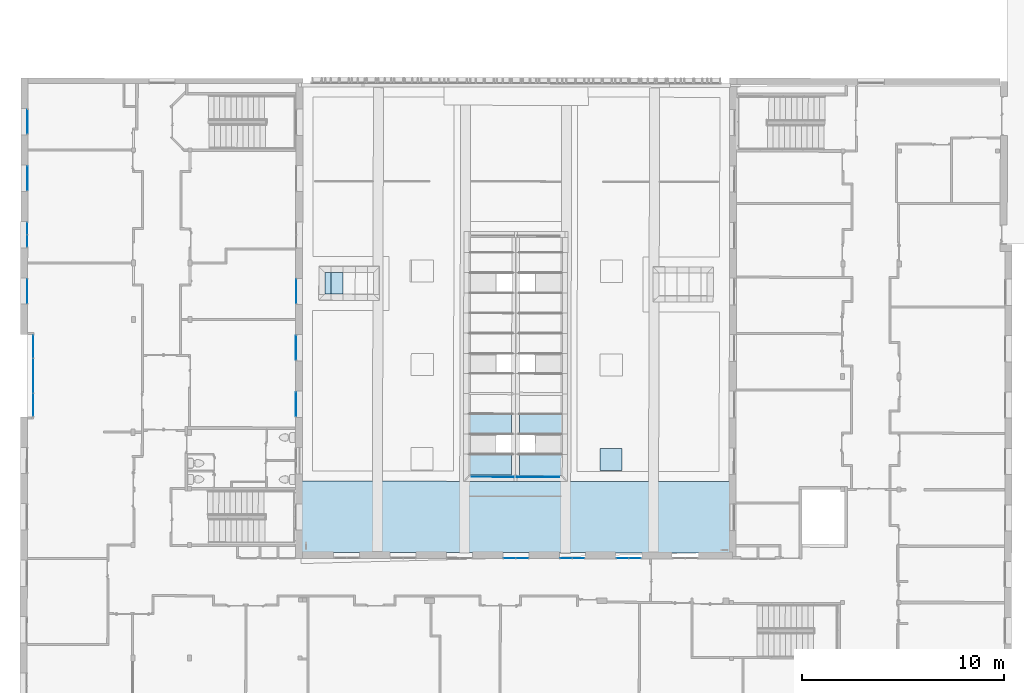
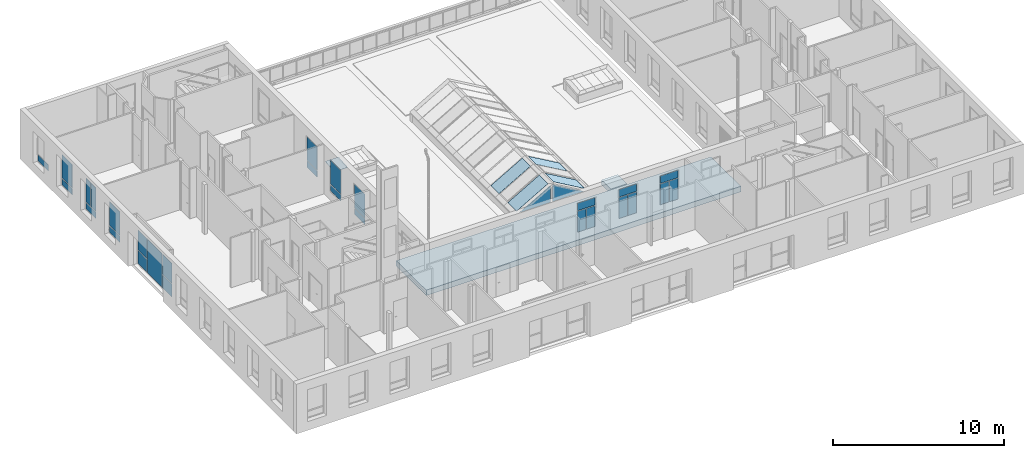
# One storey, part 35 of 101: 36 plates, 2 slabs, 16 elements without a shape of their own.
"""IFC2X3 building model written with IfcOpenShell, lengths in metres."""

from ifc_helpers import new_model, entity, si_unit, converted_unit, derived_unit, direction, frame, frame_2d, origin, place, context, subcontext, project, spatial, polyline, rectangle, outline, extrude, source, transform, mapped, material, layer, layer_set, type_object, type_shapes, element, aggregate, save


model = new_model("IFC2X3")

# Units and contexts
model_context = context("Model", 3, precision=1e-05, world=origin(), true_north=direction((6.123233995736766e-17, 1.0)))
body_context = subcontext(model_context, "Body", "Model", "MODEL_VIEW")
ifc_project = project(units=[si_unit("LENGTHUNIT", "METRE"), si_unit("AREAUNIT", "SQUARE_METRE"), converted_unit("PLANEANGLEUNIT", "DEGREE", entity("IfcPlaneAngleMeasure", 0.017453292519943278), si_unit("PLANEANGLEUNIT", "RADIAN"), dimensions=[0, 0, 0, 0, 0, 0, 0]), derived_unit("THERMALTRANSMITTANCEUNIT", [(si_unit("MASSUNIT", "GRAM", prefix="KILO"), 1), (si_unit("THERMODYNAMICTEMPERATUREUNIT", "KELVIN"), -1), (si_unit("TIMEUNIT", "SECOND"), -3)])], contexts=[model_context])

# Site, building, storey
site_placement = place(None, frame((1253.6752467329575, 2072.143113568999, 91.49999999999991), z_axis=(0.0, 0.0, 1.0), x_axis=(0.7237211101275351, 0.6900925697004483, 0.0)))
site = spatial("IfcSite", under=ifc_project, at=site_placement, Name="Surface", CompositionType="ELEMENT")
building_placement = place(site_placement, origin())
building = spatial("IfcBuilding", under=site, at=building_placement, CompositionType="ELEMENT")
storey_placement = place(building_placement, origin())
storey = spatial("IfcBuildingStorey", under=building, at=storey_placement, Name="0- Rdc", CompositionType="ELEMENT", Elevation=-5.764692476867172e-13)

# Curtain wall, plate
curtain_wall_type_1 = type_object("IfcCurtainWallType", Name="Mur-rideau:Menuiserie Ext 1F+1OB VERTIC", PredefinedType="NOTDEFINED")
curtain_wall_1_placement = place(storey_placement, origin())
curtain_wall_1 = element("IfcCurtainWall", 1, at=curtain_wall_1_placement, inside=storey, type_object=curtain_wall_type_1, Name="Mur-rideau:Menuiserie Ext 1F+1OB VERTIC", ObjectType="Mur-rideau:Menuiserie Ext 1F+1OB VERTIC")
ifc_material_1 = material(Name="Verre")
ifc_layer_1 = layer(ifc_material_1, 0.01)
ifc_layer_set_1 = layer_set([ifc_layer_1], Name="Panneau système:Vitré")
plate_type_1 = type_object("IfcPlateType", Name="Panneau système:Vitré", PredefinedType="CURTAIN_PANEL", material=ifc_layer_set_1)
shared_shape_1 = source(origin(), body_context, "Body", "SweptSolid", [
    extrude(rectangle(XDim=0.01, YDim=1.199695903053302, at=frame_2d((0.0, -4.163336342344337e-15), x_axis=(1.0, 0.0))), frame((0.0, 0.0, 0.0), z_axis=(0.0, 0.0, 1.0), x_axis=(0.0, 1.0, 0.0)), (0.0, 0.0, 1.0), 0.44499999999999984),
])
type_shapes(plate_type_1, [shared_shape_1])
plate_1_placement = place(curtain_wall_1_placement, frame((159.11089533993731, 19.86178954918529, 0.6699999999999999), z_axis=(0.0, 0.0, 1.0), x_axis=(0.6911544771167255, 0.7227070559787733, 0.0)))
plate_1 = element("IfcPlate", 2, at=plate_1_placement, type_object=plate_type_1, material=ifc_material_1, Name="Panneau système:Vitré", ObjectType="Panneau système:Vitré", context=body_context, shape_type="MappedRepresentation", body=[
    mapped(shared_shape_1, transform((0.0, 0.0, 0.0), scale=1.0)),
])

curtain_wall_2_placement = place(storey_placement, origin())
curtain_wall_2 = element("IfcCurtainWall", 3, at=curtain_wall_2_placement, inside=storey, type_object=curtain_wall_type_1, Name="Mur-rideau:Menuiserie Ext 1F+1OB VERTIC", ObjectType="Mur-rideau:Menuiserie Ext 1F+1OB VERTIC")
plate_2_placement = place(curtain_wall_2_placement, frame((162.98040469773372, 23.909862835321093, 0.6699999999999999), z_axis=(0.0, 0.0, 1.0), x_axis=(0.6911544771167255, 0.7227070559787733, 0.0)))
plate_2 = element("IfcPlate", 4, at=plate_2_placement, type_object=plate_type_1, material=ifc_material_1, Name="Panneau système:Vitré", ObjectType="Panneau système:Vitré", context=body_context, shape_type="MappedRepresentation", body=[
    mapped(shared_shape_1, transform((0.0, 0.0, 0.0), scale=1.0)),
])

curtain_wall_3_placement = place(storey_placement, origin())
curtain_wall_3 = element("IfcCurtainWall", 5, at=curtain_wall_3_placement, inside=storey, type_object=curtain_wall_type_1, Name="Mur-rideau:Menuiserie Ext 1F+1OB VERTIC", ObjectType="Mur-rideau:Menuiserie Ext 1F+1OB VERTIC")
plate_3_placement = place(curtain_wall_3_placement, frame((164.91515937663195, 25.933899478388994, 0.6699999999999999), z_axis=(0.0, 0.0, 1.0), x_axis=(0.6911544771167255, 0.7227070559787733, 0.0)))
plate_3 = element("IfcPlate", 6, at=plate_3_placement, type_object=plate_type_1, material=ifc_material_1, Name="Panneau système:Vitré", ObjectType="Panneau système:Vitré", context=body_context, shape_type="MappedRepresentation", body=[
    mapped(shared_shape_1, transform((0.0, 0.0, 0.0), scale=1.0)),
])
aggregate(curtain_wall_3, [plate_3])

# Plate
plate_type_2 = type_object("IfcPlateType", Name="Panneau système:Vitré", PredefinedType="CURTAIN_PANEL", material=ifc_layer_set_1)
shared_shape_2 = source(origin(), body_context, "Body", "SweptSolid", [
    extrude(rectangle(XDim=0.01, YDim=1.199695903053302, at=frame_2d((0.0, -4.163336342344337e-15), x_axis=(1.0, 0.0))), frame((0.0, 0.0, 0.0), z_axis=(0.0, 0.0, 1.0), x_axis=(0.0, 1.0, 0.0)), (0.0, 0.0, 1.0), 1.6849999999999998),
])
type_shapes(plate_type_2, [shared_shape_2])
plate_4_placement = place(curtain_wall_1_placement, frame((159.11089533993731, 19.86178954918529, 1.1649999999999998), z_axis=(0.0, 0.0, 1.0), x_axis=(0.6911544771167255, 0.7227070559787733, 0.0)))
plate_4 = element("IfcPlate", 7, at=plate_4_placement, type_object=plate_type_2, material=ifc_material_1, Name="Panneau système:Vitré", ObjectType="Panneau système:Vitré", context=body_context, shape_type="MappedRepresentation", body=[
    mapped(shared_shape_2, transform((0.0, 0.0, 0.0), scale=1.0)),
])

aggregate(curtain_wall_1, [plate_1, plate_4])

plate_5_placement = place(curtain_wall_2_placement, frame((162.98040469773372, 23.909862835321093, 1.1649999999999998), z_axis=(0.0, 0.0, 1.0), x_axis=(0.6911544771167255, 0.7227070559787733, 0.0)))
plate_5 = element("IfcPlate", 8, at=plate_5_placement, type_object=plate_type_2, material=ifc_material_1, Name="Panneau système:Vitré", ObjectType="Panneau système:Vitré", context=body_context, shape_type="MappedRepresentation", body=[
    mapped(shared_shape_2, transform((0.0, 0.0, 0.0), scale=1.0)),
])

aggregate(curtain_wall_2, [plate_2, plate_5])

# Curtain wall, plates
curtain_wall_4_placement = place(storey_placement, origin())
curtain_wall_4 = element("IfcCurtainWall", 9, at=curtain_wall_4_placement, inside=storey, type_object=curtain_wall_type_1, Name="Mur-rideau:Menuiserie Ext 1F+1OB VERTIC", ObjectType="Mur-rideau:Menuiserie Ext 1F+1OB VERTIC")
plate_type_3 = type_object("IfcPlateType", Name="Panneau système:Vitré", PredefinedType="CURTAIN_PANEL", material=ifc_layer_set_1)
shared_shape_3 = source(origin(), body_context, "Body", "SweptSolid", [
    extrude(rectangle(XDim=0.44499999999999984, YDim=1.1996959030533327, at=frame_2d((0.0, -5.773159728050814e-15), x_axis=(1.0, 0.0))), frame((0.0, -0.005000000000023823, 0.22249999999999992), z_axis=(0.0, 1.0, 0.0), x_axis=(0.0, 0.0, 1.0)), (0.0, 0.0, 1.0), 0.01),
])
type_shapes(plate_type_3, [shared_shape_3])
plate_6_placement = place(curtain_wall_4_placement, frame((161.04565001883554, 21.885826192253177, 0.6699999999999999), z_axis=(0.0, 0.0, 1.0), x_axis=(0.6911544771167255, 0.7227070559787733, 0.0)))
plate_6 = element("IfcPlate", 10, at=plate_6_placement, type_object=plate_type_3, material=ifc_material_1, Name="Panneau système:Vitré", ObjectType="Panneau système:Vitré", context=body_context, shape_type="MappedRepresentation", body=[
    mapped(shared_shape_3, transform((0.0, 0.0, 0.0), scale=1.0)),
])
plate_type_4 = type_object("IfcPlateType", Name="Panneau système:Vitré", PredefinedType="CURTAIN_PANEL", material=ifc_layer_set_1)
shared_shape_4 = source(origin(), body_context, "Body", "SweptSolid", [
    extrude(rectangle(XDim=0.01, YDim=0.5748479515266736, at=frame_2d((0.0, 8.326672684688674e-16), x_axis=(1.0, 0.0))), frame((0.0, 0.0, 0.0), z_axis=(0.0, 0.0, 1.0), x_axis=(0.0, 1.0, 0.0)), (0.0, 0.0, 1.0), 1.6850000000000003),
])
type_shapes(plate_type_4, [shared_shape_4])
plate_7_placement = place(curtain_wall_4_placement, frame((160.8297167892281, 21.660035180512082, 1.1649999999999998), z_axis=(0.0, 0.0, 1.0), x_axis=(0.6911544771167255, 0.7227070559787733, 0.0)))
plate_7 = element("IfcPlate", 11, at=plate_7_placement, type_object=plate_type_4, material=ifc_material_1, Name="Panneau système:Vitré", ObjectType="Panneau système:Vitré", context=body_context, shape_type="MappedRepresentation", body=[
    mapped(shared_shape_4, transform((0.0, 0.0, 0.0), scale=1.0)),
])
plate_8_placement = place(curtain_wall_4_placement, frame((161.26158324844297, 22.1116172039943, 1.1649999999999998), z_axis=(0.0, 0.0, 1.0), x_axis=(0.6911544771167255, 0.7227070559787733, 0.0)))
plate_8 = element("IfcPlate", 12, at=plate_8_placement, type_object=plate_type_4, material=ifc_material_1, Name="Panneau système:Vitré", ObjectType="Panneau système:Vitré", context=body_context, shape_type="MappedRepresentation", body=[
    mapped(shared_shape_4, transform((0.0, 0.0, 0.0), scale=1.0)),
])
aggregate(curtain_wall_4, [plate_6, plate_7, plate_8])

# Curtain wall, plate
curtain_wall_5_placement = place(storey_placement, origin())
curtain_wall_5 = element("IfcCurtainWall", 13, at=curtain_wall_5_placement, inside=storey, type_object=curtain_wall_type_1, Name="Mur-rideau:Menuiserie Ext 1F+1OB VERTIC", ObjectType="Mur-rideau:Menuiserie Ext 1F+1OB VERTIC")
plate_type_5 = type_object("IfcPlateType", Name="Panneau système:Vitré", PredefinedType="CURTAIN_PANEL", material=ifc_layer_set_1)
shared_shape_5 = source(origin(), body_context, "Body", "SweptSolid", [
    extrude(rectangle(XDim=0.01, YDim=1.199695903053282, at=frame_2d((0.0, 4.163336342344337e-15), x_axis=(1.0, 0.0))), frame((0.0, 0.0, 0.0), z_axis=(0.0, 0.0, 1.0), x_axis=(0.0, 1.0, 0.0)), (0.0, 0.0, 1.0), 0.44499999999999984),
])
type_shapes(plate_type_5, [shared_shape_5])
plate_9_placement = place(curtain_wall_5_placement, frame((168.75534873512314, 10.64824385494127, 0.6699999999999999), z_axis=(0.0, 0.0, 1.0), x_axis=(0.6909838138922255, 0.722870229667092, 0.0)))
plate_9 = element("IfcPlate", 14, at=plate_9_placement, type_object=plate_type_5, material=ifc_material_1, Name="Panneau système:Vitré", ObjectType="Panneau système:Vitré", context=body_context, shape_type="MappedRepresentation", body=[
    mapped(shared_shape_5, transform((0.0, 0.0, 0.0), scale=1.0)),
])

curtain_wall_6_placement = place(storey_placement, origin())
curtain_wall_6 = element("IfcCurtainWall", 15, at=curtain_wall_6_placement, inside=storey, type_object=curtain_wall_type_1, Name="Mur-rideau:Menuiserie Ext 1F+1OB VERTIC", ObjectType="Mur-rideau:Menuiserie Ext 1F+1OB VERTIC")
plate_10_placement = place(curtain_wall_6_placement, frame((166.820594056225, 8.624207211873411, 0.6699999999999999), z_axis=(0.0, 0.0, 1.0), x_axis=(0.6909838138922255, 0.722870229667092, 0.0)))
plate_10 = element("IfcPlate", 16, at=plate_10_placement, type_object=plate_type_5, material=ifc_material_1, Name="Panneau système:Vitré", ObjectType="Panneau système:Vitré", context=body_context, shape_type="MappedRepresentation", body=[
    mapped(shared_shape_5, transform((0.0, 0.0, 0.0), scale=1.0)),
])

curtain_wall_7_placement = place(storey_placement, origin())
curtain_wall_7 = element("IfcCurtainWall", 17, at=curtain_wall_7_placement, inside=storey, type_object=curtain_wall_type_1, Name="Mur-rideau:Menuiserie Ext 1F+1OB VERTIC", ObjectType="Mur-rideau:Menuiserie Ext 1F+1OB VERTIC")
plate_11_placement = place(curtain_wall_7_placement, frame((164.88583937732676, 6.60017056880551, 0.6699999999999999), z_axis=(0.0, 0.0, 1.0), x_axis=(0.6909838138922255, 0.722870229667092, 0.0)))
plate_11 = element("IfcPlate", 18, at=plate_11_placement, type_object=plate_type_5, material=ifc_material_1, Name="Panneau système:Vitré", ObjectType="Panneau système:Vitré", context=body_context, shape_type="MappedRepresentation", body=[
    mapped(shared_shape_5, transform((0.0, 0.0, 0.0), scale=1.0)),
])

# Plate
plate_type_6 = type_object("IfcPlateType", Name="Panneau système:Vitré", PredefinedType="CURTAIN_PANEL", material=ifc_layer_set_1)
shared_shape_6 = source(origin(), body_context, "Body", "SweptSolid", [
    extrude(rectangle(XDim=0.01, YDim=1.199695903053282, at=frame_2d((0.0, 4.163336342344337e-15), x_axis=(1.0, 0.0))), frame((0.0, 0.0, 0.0), z_axis=(0.0, 0.0, 1.0), x_axis=(0.0, 1.0, 0.0)), (0.0, 0.0, 1.0), 1.6849999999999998),
])
type_shapes(plate_type_6, [shared_shape_6])
plate_12_placement = place(curtain_wall_5_placement, frame((168.75534873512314, 10.64824385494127, 1.1649999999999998), z_axis=(0.0, 0.0, 1.0), x_axis=(0.6909838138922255, 0.722870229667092, 0.0)))
plate_12 = element("IfcPlate", 19, at=plate_12_placement, type_object=plate_type_6, material=ifc_material_1, Name="Panneau système:Vitré", ObjectType="Panneau système:Vitré", context=body_context, shape_type="MappedRepresentation", body=[
    mapped(shared_shape_6, transform((0.0, 0.0, 0.0), scale=1.0)),
])

aggregate(curtain_wall_5, [plate_9, plate_12])

plate_13_placement = place(curtain_wall_6_placement, frame((166.820594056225, 8.624207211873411, 1.1649999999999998), z_axis=(0.0, 0.0, 1.0), x_axis=(0.6909838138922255, 0.722870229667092, 0.0)))
plate_13 = element("IfcPlate", 20, at=plate_13_placement, type_object=plate_type_6, material=ifc_material_1, Name="Panneau système:Vitré", ObjectType="Panneau système:Vitré", context=body_context, shape_type="MappedRepresentation", body=[
    mapped(shared_shape_6, transform((0.0, 0.0, 0.0), scale=1.0)),
])

aggregate(curtain_wall_6, [plate_10, plate_13])

plate_14_placement = place(curtain_wall_7_placement, frame((164.88583937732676, 6.60017056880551, 1.1649999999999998), z_axis=(0.0, 0.0, 1.0), x_axis=(0.6909838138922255, 0.722870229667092, 0.0)))
plate_14 = element("IfcPlate", 21, at=plate_14_placement, type_object=plate_type_6, material=ifc_material_1, Name="Panneau système:Vitré", ObjectType="Panneau système:Vitré", context=body_context, shape_type="MappedRepresentation", body=[
    mapped(shared_shape_6, transform((0.0, 0.0, 0.0), scale=1.0)),
])

aggregate(curtain_wall_7, [plate_11, plate_14])

# Curtain wall, plates
curtain_wall_type_2 = type_object("IfcCurtainWallType", Name="Mur-rideau:Menuiserie Ext 2OF+1F VERTIC", PredefinedType="NOTDEFINED")
curtain_wall_8_placement = place(storey_placement, origin())
curtain_wall_8 = element("IfcCurtainWall", 22, at=curtain_wall_8_placement, inside=storey, type_object=curtain_wall_type_2, Name="Mur-rideau:Menuiserie Ext 2OF+1F VERTIC", ObjectType="Mur-rideau:Menuiserie Ext 2OF+1F VERTIC")
plate_type_7 = type_object("IfcPlateType", Name="Panneau système:Vitré", PredefinedType="CURTAIN_PANEL", material=ifc_layer_set_1)
shared_shape_7 = source(origin(), body_context, "Body", "SweptSolid", [
    extrude(rectangle(XDim=0.01, YDim=0.5748479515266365, at=frame_2d((0.0, 1.4988010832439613e-15), x_axis=(1.0, 0.0))), frame((0.0, 0.0, 0.0), z_axis=(0.0, 0.0, 1.0), x_axis=(0.0, 1.0, 0.0)), (0.0, 0.0, 1.0), 1.4833333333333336),
])
type_shapes(plate_type_7, [shared_shape_7])
plate_15_placement = place(curtain_wall_8_placement, frame((167.74029189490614, -6.6768079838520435, 0.7916666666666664), z_axis=(0.0, 0.0, 1.0), x_axis=(-0.7228702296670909, 0.6909838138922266, 0.0)))
plate_15 = element("IfcPlate", 23, at=plate_15_placement, type_object=plate_type_7, material=ifc_material_1, Name="Panneau système:Vitré", ObjectType="Panneau système:Vitré", context=body_context, shape_type="MappedRepresentation", body=[
    mapped(shared_shape_7, transform((0.0, 0.0, 0.0), scale=1.0)),
])
plate_16_placement = place(curtain_wall_8_placement, frame((167.288607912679, -6.245048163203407, 0.7916666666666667), z_axis=(0.0, 0.0, 1.0), x_axis=(-0.7228702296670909, 0.6909838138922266, 0.0)))
plate_16 = element("IfcPlate", 24, at=plate_16_placement, type_object=plate_type_7, material=ifc_material_1, Name="Panneau système:Vitré", ObjectType="Panneau système:Vitré", context=body_context, shape_type="MappedRepresentation", body=[
    mapped(shared_shape_7, transform((0.0, 0.0, 0.0), scale=1.0)),
])

curtain_wall_9_placement = place(storey_placement, origin())
curtain_wall_9 = element("IfcCurtainWall", 25, at=curtain_wall_9_placement, inside=storey, type_object=curtain_wall_type_2, Name="Mur-rideau:Menuiserie Ext 2OF+1F VERTIC", ObjectType="Mur-rideau:Menuiserie Ext 2OF+1F VERTIC")
plate_17_placement = place(curtain_wall_9_placement, frame((169.764328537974, -8.611562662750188, 0.7916666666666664), z_axis=(0.0, 0.0, 1.0), x_axis=(-0.7228702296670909, 0.6909838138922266, 0.0)))
plate_17 = element("IfcPlate", 26, at=plate_17_placement, type_object=plate_type_7, material=ifc_material_1, Name="Panneau système:Vitré", ObjectType="Panneau système:Vitré", context=body_context, shape_type="MappedRepresentation", body=[
    mapped(shared_shape_7, transform((0.0, 0.0, 0.0), scale=1.0)),
])
plate_18_placement = place(curtain_wall_9_placement, frame((169.31264455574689, -8.179802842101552, 0.7916666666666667), z_axis=(0.0, 0.0, 1.0), x_axis=(-0.7228702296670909, 0.6909838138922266, 0.0)))
plate_18 = element("IfcPlate", 27, at=plate_18_placement, type_object=plate_type_7, material=ifc_material_1, Name="Panneau système:Vitré", ObjectType="Panneau système:Vitré", context=body_context, shape_type="MappedRepresentation", body=[
    mapped(shared_shape_7, transform((0.0, 0.0, 0.0), scale=1.0)),
])

curtain_wall_10_placement = place(storey_placement, origin())
curtain_wall_10 = element("IfcCurtainWall", 28, at=curtain_wall_10_placement, inside=storey, type_object=curtain_wall_type_2, Name="Mur-rideau:Menuiserie Ext 2OF+1F VERTIC", ObjectType="Mur-rideau:Menuiserie Ext 2OF+1F VERTIC")
plate_19_placement = place(curtain_wall_10_placement, frame((171.78836518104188, -10.54631734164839, 0.7916666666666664), z_axis=(0.0, 0.0, 1.0), x_axis=(-0.7228702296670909, 0.6909838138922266, 0.0)))
plate_19 = element("IfcPlate", 29, at=plate_19_placement, type_object=plate_type_7, material=ifc_material_1, Name="Panneau système:Vitré", ObjectType="Panneau système:Vitré", context=body_context, shape_type="MappedRepresentation", body=[
    mapped(shared_shape_7, transform((0.0, 0.0, 0.0), scale=1.0)),
])
plate_20_placement = place(curtain_wall_10_placement, frame((171.33668119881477, -10.114557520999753, 0.7916666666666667), z_axis=(0.0, 0.0, 1.0), x_axis=(-0.7228702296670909, 0.6909838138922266, 0.0)))
plate_20 = element("IfcPlate", 30, at=plate_20_placement, type_object=plate_type_7, material=ifc_material_1, Name="Panneau système:Vitré", ObjectType="Panneau système:Vitré", context=body_context, shape_type="MappedRepresentation", body=[
    mapped(shared_shape_7, transform((0.0, 0.0, 0.0), scale=1.0)),
])

# Plate
plate_type_8 = type_object("IfcPlateType", Name="Panneau système:Vitré", PredefinedType="CURTAIN_PANEL", material=ifc_layer_set_1)
shared_shape_8 = source(origin(), body_context, "Body", "SweptSolid", [
    extrude(rectangle(XDim=0.5249999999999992, YDim=1.1996959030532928, at=frame_2d((-2.7755575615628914e-17, 5.551115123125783e-17), x_axis=(1.0, 0.0))), frame((0.0, -0.005000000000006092, 0.2624999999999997), z_axis=(0.0, 1.0, 0.0), x_axis=(0.0, 0.0, 1.0)), (0.0, 0.0, 1.0), 0.01),
])
type_shapes(plate_type_8, [shared_shape_8])
plate_21_placement = place(curtain_wall_8_placement, frame((167.51444990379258, -6.460928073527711, 2.325), z_axis=(0.0, 0.0, 1.0), x_axis=(-0.7228702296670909, 0.6909838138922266, 0.0)))
plate_21 = element("IfcPlate", 31, at=plate_21_placement, type_object=plate_type_8, material=ifc_material_1, Name="Panneau système:Vitré", ObjectType="Panneau système:Vitré", context=body_context, shape_type="MappedRepresentation", body=[
    mapped(shared_shape_8, transform((0.0, 0.0, 0.0), scale=1.0)),
])

aggregate(curtain_wall_8, [plate_15, plate_16, plate_21])

plate_22_placement = place(curtain_wall_9_placement, frame((169.53848654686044, -8.395682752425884, 2.325), z_axis=(0.0, 0.0, 1.0), x_axis=(-0.7228702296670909, 0.6909838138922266, 0.0)))
plate_22 = element("IfcPlate", 32, at=plate_22_placement, type_object=plate_type_8, material=ifc_material_1, Name="Panneau système:Vitré", ObjectType="Panneau système:Vitré", context=body_context, shape_type="MappedRepresentation", body=[
    mapped(shared_shape_8, transform((0.0, 0.0, 0.0), scale=1.0)),
])

aggregate(curtain_wall_9, [plate_17, plate_18, plate_22])

plate_23_placement = place(curtain_wall_10_placement, frame((171.5625231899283, -10.330437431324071, 2.325), z_axis=(0.0, 0.0, 1.0), x_axis=(-0.7228702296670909, 0.6909838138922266, 0.0)))
plate_23 = element("IfcPlate", 33, at=plate_23_placement, type_object=plate_type_8, material=ifc_material_1, Name="Panneau système:Vitré", ObjectType="Panneau système:Vitré", context=body_context, shape_type="MappedRepresentation", body=[
    mapped(shared_shape_8, transform((0.0, 0.0, 0.0), scale=1.0)),
])

aggregate(curtain_wall_10, [plate_19, plate_20, plate_23])

# Curtain wall, plates
curtain_wall_11_placement = place(storey_placement, origin())
curtain_wall_11 = element("IfcCurtainWall", 34, at=curtain_wall_11_placement, inside=storey, type_object=curtain_wall_type_1, Name="Mur-rideau:Menuiserie Ext 1F+1OB VERTIC", ObjectType="Mur-rideau:Menuiserie Ext 1F+1OB VERTIC")
plate_type_9 = type_object("IfcPlateType", Name="Panneau système:Vitré", PredefinedType="CURTAIN_PANEL", material=ifc_layer_set_1)
shared_shape_9 = source(origin(), body_context, "Body", "SweptSolid", [
    extrude(rectangle(XDim=0.01, YDim=1.099999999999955, at=frame_2d((0.0, 1.7208456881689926e-15), x_axis=(1.0, 0.0))), frame((0.0, 0.0, 0.0), z_axis=(0.0, 0.0, 1.0), x_axis=(0.0, 1.0, 0.0)), (0.0, 0.0, 1.0), 0.9249999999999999),
])
type_shapes(plate_type_9, [shared_shape_9])
plate_24_placement = place(curtain_wall_11_placement, frame((157.4288103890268, 17.670669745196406, 0.05), z_axis=(0.0, 0.0, 1.0), x_axis=(-0.6909838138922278, -0.7228702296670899, 0.0)))
plate_24 = element("IfcPlate", 35, at=plate_24_placement, type_object=plate_type_9, material=ifc_material_1, Name="Panneau système:Vitré", ObjectType="Panneau système:Vitré", context=body_context, shape_type="MappedRepresentation", body=[
    mapped(shared_shape_9, transform((0.0, 0.0, 0.0), scale=1.0)),
])
plate_type_10 = type_object("IfcPlateType", Name="Panneau système:Vitré", PredefinedType="CURTAIN_PANEL", material=ifc_layer_set_1)
shared_shape_10 = source(origin(), body_context, "Body", "SweptSolid", [
    extrude(rectangle(XDim=2.3999999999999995, YDim=1.6950000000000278, at=frame_2d((0.08333333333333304, -5.551115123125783e-17), x_axis=(1.0, 0.0))), frame((0.0, -0.0049999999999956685, 1.1166666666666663), z_axis=(0.0, 1.0, 0.0), x_axis=(0.0, 0.0, 1.0)), (0.0, 0.0, 1.0), 0.01),
])
type_shapes(plate_type_10, [shared_shape_10])
plate_25_placement = place(curtain_wall_11_placement, frame((156.42861131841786, 16.62431508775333, 0.05), z_axis=(0.0, 0.0, 1.0), x_axis=(-0.6909838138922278, -0.7228702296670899, 0.0)))
plate_25 = element("IfcPlate", 36, at=plate_25_placement, type_object=plate_type_10, material=ifc_material_1, Name="Panneau système:Vitré", ObjectType="Panneau système:Vitré", context=body_context, shape_type="MappedRepresentation", body=[
    mapped(shared_shape_10, transform((0.0, 0.0, 0.0), scale=1.0)),
])
plate_type_11 = type_object("IfcPlateType", Name="Panneau système:Vitré", PredefinedType="CURTAIN_PANEL", material=ifc_layer_set_1)
shared_shape_11 = source(origin(), body_context, "Body", "SweptSolid", [
    extrude(rectangle(XDim=0.01, YDim=1.1049999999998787, at=frame_2d((0.0, 1.2212453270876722e-15), x_axis=(1.0, 0.0))), frame((0.0, 0.0, 0.0), z_axis=(0.0, 0.0, 1.0), x_axis=(0.0, 1.0, 0.0)), (0.0, 0.0, 1.0), 0.9249999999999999),
])
type_shapes(plate_type_11, [shared_shape_11])
plate_26_placement = place(curtain_wall_11_placement, frame((155.4266847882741, 15.576153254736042, 0.05), z_axis=(0.0, 0.0, 1.0), x_axis=(-0.6909838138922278, -0.7228702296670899, 0.0)))
plate_26 = element("IfcPlate", 37, at=plate_26_placement, type_object=plate_type_11, material=ifc_material_1, Name="Panneau système:Vitré", ObjectType="Panneau système:Vitré", context=body_context, shape_type="MappedRepresentation", body=[
    mapped(shared_shape_11, transform((0.0, 0.0, 0.0), scale=1.0)),
])
plate_type_12 = type_object("IfcPlateType", Name="Panneau système:Vitré", PredefinedType="CURTAIN_PANEL", material=ifc_layer_set_1)
shared_shape_12 = source(origin(), body_context, "Body", "SweptSolid", [
    extrude(rectangle(XDim=0.01, YDim=1.0999999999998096, at=frame_2d((0.0, 2.886579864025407e-15), x_axis=(1.0, 0.0))), frame((0.0, 0.0, 0.0), z_axis=(0.0, 0.0, 1.0), x_axis=(0.0, 1.0, 0.0)), (0.0, 0.0, 1.0), 1.4249999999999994),
])
type_shapes(plate_type_12, [shared_shape_12])
plate_27_placement = place(curtain_wall_11_placement, frame((157.4288103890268, 17.670669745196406, 1.025), z_axis=(0.0, 0.0, 1.0), x_axis=(-0.6909838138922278, -0.7228702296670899, 0.0)))
plate_27 = element("IfcPlate", 38, at=plate_27_placement, type_object=plate_type_12, material=ifc_material_1, Name="Panneau système:Vitré", ObjectType="Panneau système:Vitré", context=body_context, shape_type="MappedRepresentation", body=[
    mapped(shared_shape_12, transform((0.0, 0.0, 0.0), scale=1.0)),
])
plate_type_13 = type_object("IfcPlateType", Name="Panneau système:Vitré", PredefinedType="CURTAIN_PANEL", material=ifc_layer_set_1)
shared_shape_13 = source(origin(), body_context, "Body", "SweptSolid", [
    extrude(rectangle(XDim=0.01, YDim=1.1050000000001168, at=frame_2d((0.0, 9.992007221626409e-16), x_axis=(1.0, 0.0))), frame((0.0, 0.0, 0.0), z_axis=(0.0, 0.0, 1.0), x_axis=(0.0, 1.0, 0.0)), (0.0, 0.0, 1.0), 1.4249999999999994),
])
type_shapes(plate_type_13, [shared_shape_13])
plate_28_placement = place(curtain_wall_11_placement, frame((155.4266847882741, 15.576153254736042, 1.025), z_axis=(0.0, 0.0, 1.0), x_axis=(-0.6909838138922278, -0.7228702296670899, 0.0)))
plate_28 = element("IfcPlate", 39, at=plate_28_placement, type_object=plate_type_13, material=ifc_material_1, Name="Panneau système:Vitré", ObjectType="Panneau système:Vitré", context=body_context, shape_type="MappedRepresentation", body=[
    mapped(shared_shape_13, transform((0.0, 0.0, 0.0), scale=1.0)),
])
aggregate(curtain_wall_11, [plate_24, plate_25, plate_26, plate_27, plate_28])

# Roof, slab
ifc_material_2 = material(Name="OMD tranche")
ifc_layer_2 = layer(ifc_material_2, 0.35)
ifc_layer_set_2 = layer_set([ifc_layer_2], Name="Toit de base:toit terrasse 35")
roof_1_placement = place(storey_placement, frame((173.53404022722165, -6.949465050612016, -0.7988103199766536)))
roof_1 = element("IfcRoof", 40, at=roof_1_placement, inside=storey, material=ifc_layer_set_2, Name="Toit de base:toit terrasse 35", ObjectType="Toit de base:toit terrasse 35", ShapeType="NOTDEFINED")
type_product_1 = type_object("IfcTypeProduct", Name="Toit de base:toit terrasse 35")
slab_1_placement = place(roof_1_placement, origin())
slab_1 = element("IfcSlab", 41, at=slab_1_placement, type_object=type_product_1, material=ifc_layer_set_2, Name="Toit de base:toit terrasse 35", ObjectType="Toit de base:toit terrasse 35", PredefinedType="ROOF", context=body_context, shape_type="SweptSolid", body=[
    extrude(rectangle(XDim=1.1000000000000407, YDim=1.0999614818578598, at=frame_2d((-1.7319479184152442e-14, -4.874572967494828e-15), x_axis=(-0.7225099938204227, 0.691360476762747))), frame((0.7776007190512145, 0.7775994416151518, 0.00489541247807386), z_axis=(0.006153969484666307, 0.006430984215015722, 0.9999603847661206), x_axis=(0.9999810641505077, -3.95768300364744e-05, -0.006153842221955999)), (-0.006153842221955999, -0.006431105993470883, 0.9999603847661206), 0.35001386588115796),
])
aggregate(roof_1, [slab_1])

# Roof, plates
curtain_wall_type_3 = type_object("IfcCurtainWallType", Name="Vitres inclinées:Toit en verre 1 m x 2 m", PredefinedType="NOTDEFINED")
roof_2_placement = place(storey_placement, origin())
roof_2 = element("IfcRoof", 42, at=roof_2_placement, inside=storey, type_object=curtain_wall_type_3, Name="Vitres inclinées:Toit en verre 1 m x 2 m", ObjectType="Vitres inclinées:Toit en verre 1 m x 2 m", ShapeType="NOTDEFINED")
plate_type_14 = type_object("IfcPlateType", Name="Panneau système:Vitré", PredefinedType="CURTAIN_PANEL", material=ifc_layer_set_1)
shared_shape_14 = source(origin(), body_context, "Body", "SweptSolid", [
    extrude(outline(polyline([(-0.5426671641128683, -0.1517809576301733), (0.5426886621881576, -0.1517809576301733), (0.5426457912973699, 0.1517811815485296), (-0.5426672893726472, 0.15178073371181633), (-0.5426671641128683, -0.1517809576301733)])), frame((1.119635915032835e-07, -0.0050000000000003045, 0.5426672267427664), z_axis=(0.0, 1.0, 0.0), x_axis=(-4.1263365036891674e-07, 0.0, 1.0)), (0.0, 0.0, 1.0), 0.01),
])
type_shapes(plate_type_14, [shared_shape_14])
plate_29_placement = place(roof_2_placement, frame((169.79765269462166, 9.460048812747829, 0.2709464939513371), z_axis=(0.6883547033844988, 0.7201192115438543, 0.08715574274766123), x_axis=(0.7228699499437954, -0.6909841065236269, 0.0)))
plate_29 = element("IfcPlate", 43, at=plate_29_placement, type_object=plate_type_14, material=ifc_material_1, Name="Panneau système:Vitré", ObjectType="Panneau système:Vitré", context=body_context, shape_type="MappedRepresentation", body=[
    mapped(shared_shape_14, transform((0.0, 0.0, 0.0), scale=1.0)),
])
plate_type_15 = type_object("IfcPlateType", Name="Panneau système:Vitré", PredefinedType="CURTAIN_PANEL", material=ifc_layer_set_1)
shared_shape_15 = source(origin(), body_context, "Body", "SweptSolid", [
    extrude(outline(polyline([(-0.5426352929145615, -0.3017811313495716), (0.5426777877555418, -0.3017811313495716), (0.5425927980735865, 0.3017811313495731), (-0.5426352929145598, 0.30178113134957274), (-0.5426352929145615, -0.3017811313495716)])), frame((0.0, -0.00500000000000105, 0.5426352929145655), z_axis=(0.0, 1.0, 0.0), x_axis=(0.0, 0.0, 1.0)), (0.0, 0.0, 1.0), 0.01),
])
type_shapes(plate_type_15, [shared_shape_15])
plate_30_placement = place(roof_2_placement, frame((170.12551918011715, 9.146644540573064, 0.2709464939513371), z_axis=(0.6883547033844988, 0.7201192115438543, 0.08715574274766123), x_axis=(0.7228699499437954, -0.6909841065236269, 0.0)))
plate_30 = element("IfcPlate", 44, at=plate_30_placement, type_object=plate_type_15, material=ifc_material_1, Name="Panneau système:Vitré", ObjectType="Panneau système:Vitré", context=body_context, shape_type="MappedRepresentation", body=[
    mapped(shared_shape_15, transform((0.0, 0.0, 0.0), scale=1.0)),
])
aggregate(roof_2, [plate_29, plate_30])

# Roof, slab
ifc_material_3 = material(Name="OMD-Lame terasse composite")
ifc_layer_3 = layer(ifc_material_3, 0.04)
ifc_material_4 = material(Name="OMD-Vide")
ifc_layer_4 = layer(ifc_material_4, 0.24999999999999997)
ifc_material_5 = material(Name="Maçonnerie - Isolant")
ifc_layer_5 = layer(ifc_material_5, 0.1)
ifc_layer_set_3 = layer_set([ifc_layer_3, ifc_layer_4, ifc_layer_5], Name="Toit de base:Toit dallettes 80*40")
roof_3_placement = place(storey_placement, frame((159.99913415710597, -13.597514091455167, -0.4344293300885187)))
roof_3 = element("IfcRoof", 45, at=roof_3_placement, inside=storey, material=ifc_layer_set_3, Name="Toit de base:Toit dallettes 80*40", ObjectType="Toit de base:Toit dallettes 80*40", ShapeType="NOTDEFINED")
type_product_2 = type_object("IfcTypeProduct", Name="Toit de base:Toit dallettes 80*40")
slab_2_placement = place(roof_3_placement, origin())
slab_2 = element("IfcSlab", 46, at=slab_2_placement, type_object=type_product_2, material=ifc_layer_set_3, Name="Toit de base:Toit dallettes 80*40", ObjectType="Toit de base:Toit dallettes 80*40", PredefinedType="ROOF", context=body_context, shape_type="SweptSolid", body=[
    extrude(outline(polyline([(-8.912611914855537, 6.072162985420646), (6.466891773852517, -8.62835543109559), (8.912611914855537, -6.072162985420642), (-6.468021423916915, 8.629435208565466), (-8.912611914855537, 6.072162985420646)])), frame((8.91244333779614, 8.628432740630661, 0.01574485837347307), z_axis=(0.006150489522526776, 0.0064343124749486, 0.9999603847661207), x_axis=(0.9999810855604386, -3.9574919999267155e-05, -0.006150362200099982)), (-0.006150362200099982, -0.006434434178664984, 0.9999603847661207), 0.3900154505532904),
])
aggregate(roof_3, [slab_2])

# Roof, plates
roof_4_placement = place(storey_placement, origin())
roof_4 = element("IfcRoof", 47, at=roof_4_placement, inside=storey, type_object=curtain_wall_type_3, Name="Vitres inclinées:Toit en verre 1 m x 2 m", ObjectType="Vitres inclinées:Toit en verre 1 m x 2 m", ShapeType="NOTDEFINED")
plate_type_16 = type_object("IfcPlateType", Name="Panneau système:Vitré", PredefinedType="CURTAIN_PANEL", material=ifc_layer_set_1)
shared_shape_16 = source(origin(), body_context, "Body", "SweptSolid", [
    extrude(rectangle(XDim=0.01, YDim=0.9624000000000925, at=frame_2d((0.0, -2.6367796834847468e-15), x_axis=(1.0, 0.0))), frame((0.0, 0.0, 0.0), z_axis=(0.0, 0.0, 1.0), x_axis=(0.0, 1.0, 0.0)), (0.0, 0.0, 1.0), 2.452048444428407),
])
type_shapes(plate_type_16, [shared_shape_16])
plate_31_placement = place(roof_4_placement, frame((170.42215763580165, -0.029338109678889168, 0.39589942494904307), z_axis=(0.6260239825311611, -0.5984095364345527, 0.5000000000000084), x_axis=(-0.6909838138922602, -0.722870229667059, 0.0)))
plate_31 = element("IfcPlate", 48, at=plate_31_placement, type_object=plate_type_16, material=ifc_material_1, Name="Panneau système:Vitré", ObjectType="Panneau système:Vitré", context=body_context, shape_type="MappedRepresentation", body=[
    mapped(shared_shape_16, transform((0.0, 0.0, 0.0), scale=1.0)),
])
plate_32_placement = place(roof_4_placement, frame((173.76769045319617, -3.2272966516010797, 0.39589942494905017), z_axis=(-0.6260239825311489, 0.5984095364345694, 0.5000000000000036), x_axis=(0.6909838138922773, 0.7228702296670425, 0.0)))
plate_32 = element("IfcPlate", 49, at=plate_32_placement, type_object=plate_type_16, material=ifc_material_1, Name="Panneau système:Vitré", ObjectType="Panneau système:Vitré", context=body_context, shape_type="MappedRepresentation", body=[
    mapped(shared_shape_16, transform((0.0, 0.0, 0.0), scale=1.0)),
])
plate_type_17 = type_object("IfcPlateType", Name="Panneau système:Vitré", PredefinedType="CURTAIN_PANEL", material=ifc_layer_set_1)
shared_shape_17 = source(origin(), body_context, "Body", "SweptSolid", [
    extrude(outline(polyline([(-1.2260242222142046, -0.5127145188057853), (1.226024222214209, -0.5127145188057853), (1.2260242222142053, 0.5122323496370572), (-1.226024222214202, 0.5131966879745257), (-1.2260242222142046, -0.5127145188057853)])), frame((-0.00024108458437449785, -0.005000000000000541, 1.226024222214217), z_axis=(0.0, 1.0, 0.0), x_axis=(0.0, 0.0, 1.0)), (0.0, 0.0, 1.0), 0.01),
])
type_shapes(plate_type_17, [shared_shape_17])
plate_33_placement = place(roof_4_placement, frame((169.01824740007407, -1.4980337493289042, 0.39589942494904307), z_axis=(0.6260239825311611, -0.5984095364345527, 0.5000000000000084), x_axis=(-0.6909838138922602, -0.722870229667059, 0.0)))
plate_33 = element("IfcPlate", 50, at=plate_33_placement, type_object=plate_type_17, material=ifc_material_1, Name="Panneau système:Vitré", ObjectType="Panneau système:Vitré", context=body_context, shape_type="MappedRepresentation", body=[
    mapped(shared_shape_17, transform((0.0, 0.0, 0.0), scale=1.0)),
])
plate_type_18 = type_object("IfcPlateType", Name="Panneau système:Vitré", PredefinedType="CURTAIN_PANEL", material=ifc_layer_set_1)
shared_shape_18 = source(origin(), body_context, "Body", "SweptSolid", [
    extrude(outline(polyline([(-1.2258229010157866, -0.5121457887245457), (1.2262257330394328, -0.5121457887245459), (1.2258227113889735, 0.5126279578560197), (-1.2262255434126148, 0.5116636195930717), (-1.2258229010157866, -0.5121457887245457)])), frame((0.00024108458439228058, -0.005000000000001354, 1.2260242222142), z_axis=(0.0, 1.0, 0.0), x_axis=(-0.00039327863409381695, 0.0, 0.999999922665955)), (0.0, 0.0, 1.0), 0.009999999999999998),
])
type_shapes(plate_type_18, [shared_shape_18])
plate_34_placement = place(roof_4_placement, frame((172.36417317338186, -4.695581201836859, 0.39589942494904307), z_axis=(-0.6260239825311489, 0.5984095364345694, 0.5000000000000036), x_axis=(0.6909838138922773, 0.7228702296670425, 0.0)))
plate_34 = element("IfcPlate", 51, at=plate_34_placement, type_object=plate_type_18, material=ifc_material_1, Name="Panneau système:Vitré", ObjectType="Panneau système:Vitré", context=body_context, shape_type="MappedRepresentation", body=[
    mapped(shared_shape_18, transform((0.0, 0.0, 0.0), scale=1.0)),
])
aggregate(roof_4, [plate_31, plate_33, plate_34, plate_32])

# Curtain wall, plates
curtain_wall_type_4 = type_object("IfcCurtainWallType", Name="Mur-rideau:Menuiserie Ext", PredefinedType="NOTDEFINED")
curtain_wall_12_placement = place(storey_placement, origin())
curtain_wall_12 = element("IfcCurtainWall", 52, at=curtain_wall_12_placement, inside=storey, type_object=curtain_wall_type_4, Name="Mur-rideau:Menuiserie Ext", ObjectType="Mur-rideau:Menuiserie Ext")
plate_type_19 = type_object("IfcPlateType", Name="Panneau système:Vitré", PredefinedType="CURTAIN_PANEL", material=ifc_layer_set_1)
shared_shape_19 = source(origin(), body_context, "Body", "SweptSolid", [
    extrude(outline(polyline([(-1.4204306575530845, -0.351465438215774), (1.014593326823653, -0.35146543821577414), (0.4058373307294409, 0.7029308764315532), (-1.4204306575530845, -0.351465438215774)])), frame((0.3514654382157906, -0.004999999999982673, 0.4058373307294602), z_axis=(0.0, 1.0, 0.0), x_axis=(0.8660254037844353, 0.0, 0.500000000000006)), (0.0, 0.0, 1.0), 0.01),
])
type_shapes(plate_type_19, [shared_shape_19])
plate_35_placement = place(curtain_wall_12_placement, frame((171.08942897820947, -4.3014821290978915, 0.3147207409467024), z_axis=(0.0, 0.0, 1.0), x_axis=(-0.722870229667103, 0.6909838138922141, 0.0)))
plate_35 = element("IfcPlate", 53, at=plate_35_placement, type_object=plate_type_19, material=ifc_material_1, Name="Panneau système:Vitré", ObjectType="Panneau système:Vitré", context=body_context, shape_type="MappedRepresentation", body=[
    mapped(shared_shape_19, transform((0.0, 0.0, 0.0), scale=1.0)),
])
plate_type_20 = type_object("IfcPlateType", Name="Panneau système:Vitré", PredefinedType="CURTAIN_PANEL", material=ifc_layer_set_1)
shared_shape_20 = source(origin(), body_context, "Body", "SweptSolid", [
    extrude(outline(polyline([(-0.4023250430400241, -0.6968474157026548), (0.8046500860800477, -0.6968474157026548), (-0.4023250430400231, 1.3936948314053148), (-0.4023250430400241, -0.6968474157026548)])), frame((-0.3484237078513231, -0.005000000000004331, 0.402325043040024), z_axis=(0.0, 1.0, 0.0), x_axis=(0.0, 0.0, 1.0)), (0.0, 0.0, 1.0), 0.01),
])
type_shapes(plate_type_20, [shared_shape_20])
plate_36_placement = place(curtain_wall_12_placement, frame((169.46321136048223, -2.7469983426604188, 0.3147207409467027), z_axis=(0.0, 0.0, 1.0), x_axis=(-0.722870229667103, 0.6909838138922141, 0.0)))
plate_36 = element("IfcPlate", 54, at=plate_36_placement, type_object=plate_type_20, material=ifc_material_1, Name="Panneau système:Vitré", ObjectType="Panneau système:Vitré", context=body_context, shape_type="MappedRepresentation", body=[
    mapped(shared_shape_20, transform((0.0, 0.0, 0.0), scale=1.0)),
])
aggregate(curtain_wall_12, [plate_35, plate_36])

save(model, "model.ifc")
